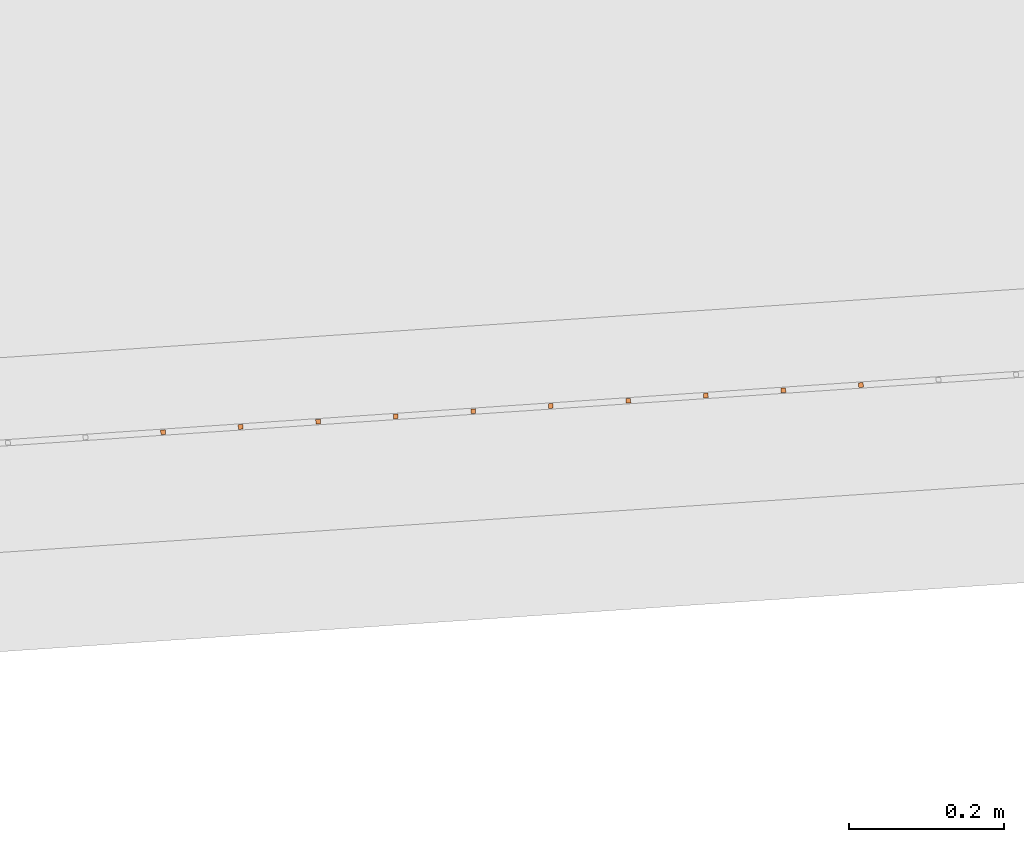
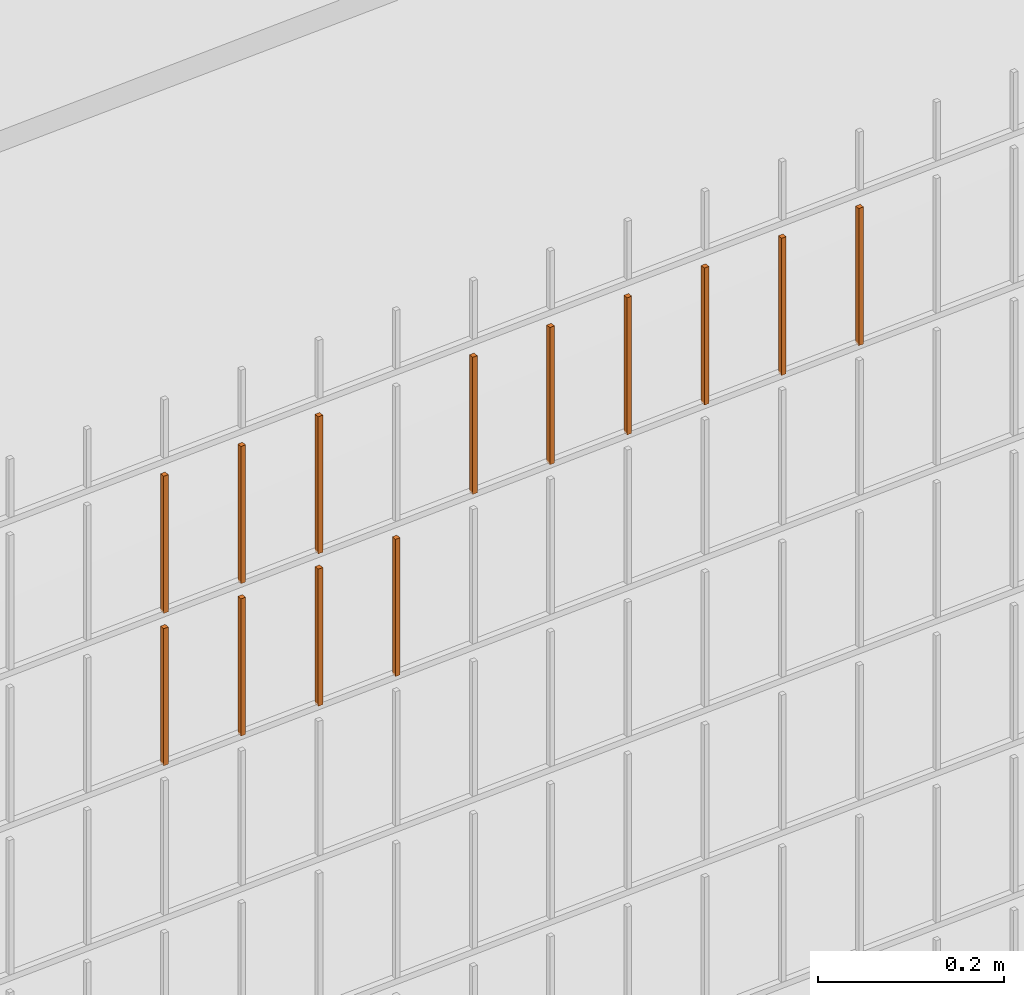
# One storey, part 261 of 1809: 13 proxies, 1 element without a shape of its own.
"""IFC2X3 building model written with IfcOpenShell, lengths in millimetres."""

from ifc_helpers import new_model, entity, si_unit, converted_unit, derived_unit, money_unit, direction, frame, origin_with_axes, place, context, subcontext, project, spatial, faceted_brep, source, transform, mapped, material, type_object, element, aggregate, save


model = new_model("IFC2X3")

# Units and contexts
model_context = context("Model", 3, precision=0.01, world=origin_with_axes(), true_north=direction((0.0, 1.0)))
body_context = subcontext(model_context, "Body", "Model", "MODEL_VIEW")
ifc_project = project(units=[si_unit("LENGTHUNIT", "METRE", prefix="MILLI"), si_unit("AREAUNIT", "SQUARE_METRE"), si_unit("VOLUMEUNIT", "CUBIC_METRE"), converted_unit("PLANEANGLEUNIT", "DEGREE", entity("IfcPlaneAngleMeasure", 0.0174532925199), si_unit("PLANEANGLEUNIT", "RADIAN"), dimensions=[0, 0, 0, 0, 0, 0, 0]), si_unit("SOLIDANGLEUNIT", "STERADIAN"), money_unit("EUR"), converted_unit("TIMEUNIT", "Year", entity("IfcTimeMeasure", 31556926.0), si_unit("TIMEUNIT", "SECOND"), dimensions=[0, 0, 1, 0, 0, 0, 0]), si_unit("MASSUNIT", "GRAM", prefix="KILO"), si_unit("THERMODYNAMICTEMPERATUREUNIT", "DEGREE_CELSIUS"), si_unit("LUMINOUSINTENSITYUNIT", "LUMEN"), si_unit("ENERGYUNIT", "JOULE", prefix="MEGA"), derived_unit("THERMALCONDUCTANCEUNIT", [(si_unit("POWERUNIT", "WATT"), 1), (si_unit("LENGTHUNIT", "METRE"), -1), (si_unit("THERMODYNAMICTEMPERATUREUNIT", "KELVIN"), -1)]), derived_unit("SPECIFICHEATCAPACITYUNIT", [(si_unit("ENERGYUNIT", "JOULE"), 1), (si_unit("MASSUNIT", "GRAM", prefix="KILO"), -1), (si_unit("THERMODYNAMICTEMPERATUREUNIT", "KELVIN"), -1)]), derived_unit("MASSDENSITYUNIT", [(si_unit("MASSUNIT", "GRAM", prefix="KILO"), 1), (si_unit("VOLUMEUNIT", "CUBIC_METRE"), -1)])], contexts=[model_context])

# Site, building, storey
site_placement = place(None, origin_with_axes())
site = spatial("IfcSite", under=ifc_project, at=site_placement, Name="Politse- ja Piirivalveameti ning Päästeameti ühishoone", CompositionType="ELEMENT")
building_placement = place(site_placement, origin_with_axes())
building = spatial("IfcBuilding", under=site, at=building_placement, Name="Politse- ja Piirivalveameti ning Päästeameti ühishoone", CompositionType="ELEMENT")
storey_placement = place(building_placement, origin_with_axes())
storey = spatial("IfcBuildingStorey", under=building, at=storey_placement, Name="Esimene korrus", CompositionType="ELEMENT", Elevation=0.0)

# Proxies
building_element_proxy_type_1 = type_object("IfcBuildingElementProxyType", Name="Railing Type", PredefinedType="NOTDEFINED")
proxy_1_placement = place(storey_placement, frame((89252.001212, -29183.4766571, 203.661247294), z_axis=(0.0, 0.0, 1.0), x_axis=(1.0, 0.0, 0.0)))
proxy_1 = element("IfcBuildingElementProxy", 1, at=proxy_1_placement, inside=storey, type_object=building_element_proxy_type_1, Name="PIIRDEAED")
ifc_material = material(Name="ET-03_Raud")
building_element_proxy_type_2 = type_object("IfcBuildingElementProxyType", Name="IfcBuildingElementProxy", PredefinedType="NOTDEFINED")
shared_shape_1 = source(origin_with_axes(), body_context, "Body", "Brep", [
    faceted_brep([(3.0, 3.0, -0.000752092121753), (-3.0, 3.0, -0.000752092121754), (-3.0, 3.0, 179.99926046), (3.0, 3.0, 179.99926046), (3.0, -3.0, 0.000752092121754), (-3.0, -3.0, 0.000752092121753), (-3.0, -3.0, 180.000764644), (3.0, -3.0, 180.000764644)], [[[0, 1, 2, 3]], [[0, 4, 5, 1]], [[1, 5, 6, 2]], [[3, 2, 6, 7]], [[4, 0, 3, 7]], [[5, 4, 7, 6]]]),
])
proxy_2_placement = place(proxy_1_placement, frame((-58692.9472729, -21262.2618507, 1812.48668932), z_axis=(0.0, 0.0, 1.0), x_axis=(1.0, 0.0, 0.0)))
proxy_2 = element("IfcBuildingElementProxy", 2, at=proxy_2_placement, type_object=building_element_proxy_type_2, material=ifc_material, Name="BALUSTER - 001", context=body_context, shape_type="MappedRepresentation", body=[
    mapped(shared_shape_1, transform((0.0, 0.0, 0.0), x_axis=(-0.0673926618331, 0.997726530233, 0.0), y_axis=(-0.997726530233, -0.0673926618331, 0.0), z_axis=(0.0, 0.0, 1.0))),
])
shared_shape_2 = source(origin_with_axes(), body_context, "Body", "Brep", [
    faceted_brep([(3.0, 3.0, -0.000752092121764), (-3.0, 3.0, -0.000752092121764), (-3.0, 3.0, 179.99926046), (3.0, 3.0, 179.99926046), (3.0, -3.0, 0.000752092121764), (-3.0, -3.0, 0.000752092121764), (-3.0, -3.0, 180.000764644), (3.0, -3.0, 180.000764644)], [[[0, 1, 2, 3]], [[0, 4, 5, 1]], [[1, 5, 6, 2]], [[3, 2, 6, 7]], [[4, 0, 3, 7]], [[5, 4, 7, 6]]]),
])
proxy_3_placement = place(proxy_1_placement, frame((-58393.6293138, -21242.0440521, 1812.56189853), z_axis=(0.0, 0.0, 1.0), x_axis=(1.0, 0.0, 0.0)))
proxy_3 = element("IfcBuildingElementProxy", 3, at=proxy_3_placement, type_object=building_element_proxy_type_2, material=ifc_material, Name="BALUSTER - 001", context=body_context, shape_type="MappedRepresentation", body=[
    mapped(shared_shape_2, transform((0.0, 0.0, 0.0), x_axis=(-0.0673926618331, 0.997726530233, 0.0), y_axis=(-0.997726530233, -0.0673926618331, 0.0), z_axis=(0.0, 0.0, 1.0))),
])
shared_shape_3 = source(origin_with_axes(), body_context, "Body", "Brep", [
    faceted_brep([(3.0, 3.0, -0.000752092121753), (-3.0, 3.0, -0.000752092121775), (-3.0, 3.0, 179.99926046), (3.0, 3.0, 179.99926046), (3.0, -3.0, 0.000752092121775), (-3.0, -3.0, 0.000752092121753), (-3.0, -3.0, 180.000764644), (3.0, -3.0, 180.000764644)], [[[0, 1, 2, 3]], [[0, 4, 5, 1]], [[1, 5, 6, 2]], [[3, 2, 6, 7]], [[4, 0, 3, 7]], [[5, 4, 7, 6]]]),
])
proxy_4_placement = place(proxy_1_placement, frame((-58293.8566608, -21235.304786, 1812.58696827), z_axis=(0.0, 0.0, 1.0), x_axis=(1.0, 0.0, 0.0)))
proxy_4 = element("IfcBuildingElementProxy", 4, at=proxy_4_placement, type_object=building_element_proxy_type_2, material=ifc_material, Name="BALUSTER - 001", context=body_context, shape_type="MappedRepresentation", body=[
    mapped(shared_shape_3, transform((0.0, 0.0, 0.0), x_axis=(-0.0673926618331, 0.997726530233, 0.0), y_axis=(-0.997726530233, -0.0673926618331, 0.0), z_axis=(0.0, 0.0, 1.0))),
])
shared_shape_4 = source(origin_with_axes(), body_context, "Body", "Brep", [
    faceted_brep([(3.0, 3.0, -0.000752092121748), (-3.0, 3.0, -0.00075209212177), (-3.0, 3.0, 179.99926046), (3.0, 3.0, 179.99926046), (3.0, -3.0, 0.00075209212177), (-3.0, -3.0, 0.000752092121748), (-3.0, -3.0, 180.000764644), (3.0, -3.0, 180.000764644)], [[[0, 1, 2, 3]], [[0, 4, 5, 1]], [[1, 5, 6, 2]], [[3, 2, 6, 7]], [[4, 0, 3, 7]], [[5, 4, 7, 6]]]),
])
proxy_5_placement = place(proxy_1_placement, frame((-58593.1746199, -21255.5225845, 1812.51175906), z_axis=(0.0, 0.0, 1.0), x_axis=(1.0, 0.0, 0.0)))
proxy_5 = element("IfcBuildingElementProxy", 5, at=proxy_5_placement, type_object=building_element_proxy_type_2, material=ifc_material, Name="BALUSTER - 001", context=body_context, shape_type="MappedRepresentation", body=[
    mapped(shared_shape_4, transform((0.0, 0.0, 0.0), x_axis=(-0.0673926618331, 0.997726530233, 0.0), y_axis=(-0.997726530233, -0.0673926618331, 0.0), z_axis=(0.0, 0.0, 1.0))),
])
shared_shape_5 = source(origin_with_axes(), body_context, "Body", "Brep", [
    faceted_brep([(3.0, 3.0, -0.000752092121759), (-3.0, 3.0, -0.000752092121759), (-3.0, 3.0, 179.99926046), (3.0, 3.0, 179.99926046), (3.0, -3.0, 0.000752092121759), (-3.0, -3.0, 0.000752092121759), (-3.0, -3.0, 180.000764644), (3.0, -3.0, 180.000764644)], [[[0, 1, 2, 3]], [[0, 4, 5, 1]], [[1, 5, 6, 2]], [[3, 2, 6, 7]], [[4, 0, 3, 7]], [[5, 4, 7, 6]]]),
])
proxy_6_placement = place(proxy_1_placement, frame((-58194.0840078, -21228.5655198, 1812.61203801), z_axis=(0.0, 0.0, 1.0), x_axis=(1.0, 0.0, 0.0)))
proxy_6 = element("IfcBuildingElementProxy", 6, at=proxy_6_placement, type_object=building_element_proxy_type_2, material=ifc_material, Name="BALUSTER - 001", context=body_context, shape_type="MappedRepresentation", body=[
    mapped(shared_shape_5, transform((0.0, 0.0, 0.0), x_axis=(-0.0673926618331, 0.997726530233, 0.0), y_axis=(-0.997726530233, -0.0673926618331, 0.0), z_axis=(0.0, 0.0, 1.0))),
])
shared_shape_6 = source(origin_with_axes(), body_context, "Body", "Brep", [
    faceted_brep([(3.0, 3.0, -0.000752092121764), (-3.0, 3.0, -0.000752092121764), (-3.0, 3.0, 179.99926046), (3.0, 3.0, 179.99926046), (3.0, -3.0, 0.000752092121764), (-3.0, -3.0, 0.000752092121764), (-3.0, -3.0, 180.000764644), (3.0, -3.0, 180.000764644)], [[[0, 1, 2, 3]], [[0, 4, 5, 1]], [[1, 5, 6, 2]], [[3, 2, 6, 7]], [[4, 0, 3, 7]], [[5, 4, 7, 6]]]),
])
proxy_7_placement = place(proxy_1_placement, frame((-58992.265232, -21282.4796492, 1812.41148011), z_axis=(0.0, 0.0, 1.0), x_axis=(1.0, 0.0, 0.0)))
proxy_7 = element("IfcBuildingElementProxy", 7, at=proxy_7_placement, type_object=building_element_proxy_type_2, material=ifc_material, Name="BALUSTER - 001", context=body_context, shape_type="MappedRepresentation", body=[
    mapped(shared_shape_6, transform((0.0, 0.0, 0.0), x_axis=(-0.0673926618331, 0.997726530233, 0.0), y_axis=(-0.997726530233, -0.0673926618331, 0.0), z_axis=(0.0, 0.0, 1.0))),
])
shared_shape_7 = source(origin_with_axes(), body_context, "Body", "Brep", [
    faceted_brep([(3.0, 3.0, -0.000752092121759), (-3.0, 3.0, -0.000752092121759), (-3.0, 3.0, 179.99926046), (3.0, 3.0, 179.99926046), (3.0, -3.0, 0.000752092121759), (-3.0, -3.0, 0.000752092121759), (-3.0, -3.0, 180.000764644), (3.0, -3.0, 180.000764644)], [[[0, 1, 2, 3]], [[0, 4, 5, 1]], [[1, 5, 6, 2]], [[3, 2, 6, 7]], [[4, 0, 3, 7]], [[5, 4, 7, 6]]]),
])
proxy_8_placement = place(proxy_1_placement, frame((-58792.7199259, -21269.0011169, 1612.46161958), z_axis=(0.0, 0.0, 1.0), x_axis=(1.0, 0.0, 0.0)))
proxy_8 = element("IfcBuildingElementProxy", 8, at=proxy_8_placement, type_object=building_element_proxy_type_2, material=ifc_material, Name="BALUSTER - 001", context=body_context, shape_type="MappedRepresentation", body=[
    mapped(shared_shape_7, transform((0.0, 0.0, 0.0), x_axis=(-0.0673926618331, 0.997726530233, 0.0), y_axis=(-0.997726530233, -0.0673926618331, 0.0), z_axis=(0.0, 0.0, 1.0))),
])
shared_shape_8 = source(origin_with_axes(), body_context, "Body", "Brep", [
    faceted_brep([(3.0, 3.0, -0.000752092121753), (-3.0, 3.0, -0.000752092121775), (-3.0, 3.0, 179.99926046), (3.0, 3.0, 179.99926046), (3.0, -3.0, 0.000752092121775), (-3.0, -3.0, 0.000752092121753), (-3.0, -3.0, 180.000764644), (3.0, -3.0, 180.000764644)], [[[0, 1, 2, 3]], [[0, 4, 5, 1]], [[1, 5, 6, 2]], [[3, 2, 6, 7]], [[4, 0, 3, 7]], [[5, 4, 7, 6]]]),
])
proxy_9_placement = place(proxy_1_placement, frame((-58892.4925789, -21275.7403831, 1612.43654985), z_axis=(0.0, 0.0, 1.0), x_axis=(1.0, 0.0, 0.0)))
proxy_9 = element("IfcBuildingElementProxy", 9, at=proxy_9_placement, type_object=building_element_proxy_type_2, material=ifc_material, Name="BALUSTER - 001", context=body_context, shape_type="MappedRepresentation", body=[
    mapped(shared_shape_8, transform((0.0, 0.0, 0.0), x_axis=(-0.0673926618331, 0.997726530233, 0.0), y_axis=(-0.997726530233, -0.0673926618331, 0.0), z_axis=(0.0, 0.0, 1.0))),
])
shared_shape_9 = source(origin_with_axes(), body_context, "Body", "Brep", [
    faceted_brep([(3.0, 3.0, -0.000752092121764), (-3.0, 3.0, -0.000752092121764), (-3.0, 3.0, 179.99926046), (3.0, 3.0, 179.99926046), (3.0, -3.0, 0.000752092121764), (-3.0, -3.0, 0.000752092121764), (-3.0, -3.0, 180.000764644), (3.0, -3.0, 180.000764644)], [[[0, 1, 2, 3]], [[0, 4, 5, 1]], [[1, 5, 6, 2]], [[3, 2, 6, 7]], [[4, 0, 3, 7]], [[5, 4, 7, 6]]]),
])
proxy_10_placement = place(proxy_1_placement, frame((-58992.265232, -21282.4796492, 1612.41148011), z_axis=(0.0, 0.0, 1.0), x_axis=(1.0, 0.0, 0.0)))
proxy_10 = element("IfcBuildingElementProxy", 10, at=proxy_10_placement, type_object=building_element_proxy_type_2, material=ifc_material, Name="BALUSTER - 001", context=body_context, shape_type="MappedRepresentation", body=[
    mapped(shared_shape_9, transform((0.0, 0.0, 0.0), x_axis=(-0.0673926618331, 0.997726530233, 0.0), y_axis=(-0.997726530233, -0.0673926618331, 0.0), z_axis=(0.0, 0.0, 1.0))),
])
shared_shape_10 = source(origin_with_axes(), body_context, "Body", "Brep", [
    faceted_brep([(3.0, 3.0, -0.000752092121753), (-3.0, 3.0, -0.000752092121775), (-3.0, 3.0, 179.99926046), (3.0, 3.0, 179.99926046), (3.0, -3.0, 0.000752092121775), (-3.0, -3.0, 0.000752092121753), (-3.0, -3.0, 180.000764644), (3.0, -3.0, 180.000764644)], [[[0, 1, 2, 3]], [[0, 4, 5, 1]], [[1, 5, 6, 2]], [[3, 2, 6, 7]], [[4, 0, 3, 7]], [[5, 4, 7, 6]]]),
])
proxy_11_placement = place(proxy_1_placement, frame((-59092.037885, -21289.2189154, 1612.38641037), z_axis=(0.0, 0.0, 1.0), x_axis=(1.0, 0.0, 0.0)))
proxy_11 = element("IfcBuildingElementProxy", 11, at=proxy_11_placement, type_object=building_element_proxy_type_2, material=ifc_material, Name="BALUSTER - 001", context=body_context, shape_type="MappedRepresentation", body=[
    mapped(shared_shape_10, transform((0.0, 0.0, 0.0), x_axis=(-0.0673926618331, 0.997726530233, 0.0), y_axis=(-0.997726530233, -0.0673926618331, 0.0), z_axis=(0.0, 0.0, 1.0))),
])
shared_shape_11 = source(origin_with_axes(), body_context, "Body", "Brep", [
    faceted_brep([(3.0, 3.0, -0.000752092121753), (-3.0, 3.0, -0.000752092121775), (-3.0, 3.0, 179.99926046), (3.0, 3.0, 179.99926046), (3.0, -3.0, 0.000752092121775), (-3.0, -3.0, 0.000752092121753), (-3.0, -3.0, 180.000764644), (3.0, -3.0, 180.000764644)], [[[0, 1, 2, 3]], [[0, 4, 5, 1]], [[1, 5, 6, 2]], [[3, 2, 6, 7]], [[4, 0, 3, 7]], [[5, 4, 7, 6]]]),
])
proxy_12_placement = place(proxy_1_placement, frame((-58493.4019668, -21248.7833183, 1812.53682879), z_axis=(0.0, 0.0, 1.0), x_axis=(1.0, 0.0, 0.0)))
proxy_12 = element("IfcBuildingElementProxy", 12, at=proxy_12_placement, type_object=building_element_proxy_type_2, material=ifc_material, Name="BALUSTER - 001", context=body_context, shape_type="MappedRepresentation", body=[
    mapped(shared_shape_11, transform((0.0, 0.0, 0.0), x_axis=(-0.0673926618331, 0.997726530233, 0.0), y_axis=(-0.997726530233, -0.0673926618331, 0.0), z_axis=(0.0, 0.0, 1.0))),
])
shared_shape_12 = source(origin_with_axes(), body_context, "Body", "Brep", [
    faceted_brep([(3.0, 3.0, -0.000752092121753), (-3.0, 3.0, -0.000752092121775), (-3.0, 3.0, 179.99926046), (3.0, 3.0, 179.99926046), (3.0, -3.0, 0.000752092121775), (-3.0, -3.0, 0.000752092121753), (-3.0, -3.0, 180.000764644), (3.0, -3.0, 180.000764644)], [[[0, 1, 2, 3]], [[0, 4, 5, 1]], [[1, 5, 6, 2]], [[3, 2, 6, 7]], [[4, 0, 3, 7]], [[5, 4, 7, 6]]]),
])
proxy_13_placement = place(proxy_1_placement, frame((-58892.4925789, -21275.7403831, 1812.43654985), z_axis=(0.0, 0.0, 1.0), x_axis=(1.0, 0.0, 0.0)))
proxy_13 = element("IfcBuildingElementProxy", 13, at=proxy_13_placement, type_object=building_element_proxy_type_2, material=ifc_material, Name="BALUSTER - 001", context=body_context, shape_type="MappedRepresentation", body=[
    mapped(shared_shape_12, transform((0.0, 0.0, 0.0), x_axis=(-0.0673926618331, 0.997726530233, 0.0), y_axis=(-0.997726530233, -0.0673926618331, 0.0), z_axis=(0.0, 0.0, 1.0))),
])
shared_shape_13 = source(origin_with_axes(), body_context, "Body", "Brep", [
    faceted_brep([(3.0, 3.0, -0.000752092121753), (-3.0, 3.0, -0.000752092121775), (-3.0, 3.0, 179.99926046), (3.0, 3.0, 179.99926046), (3.0, -3.0, 0.000752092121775), (-3.0, -3.0, 0.000752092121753), (-3.0, -3.0, 180.000764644), (3.0, -3.0, 180.000764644)], [[[0, 1, 2, 3]], [[0, 4, 5, 1]], [[1, 5, 6, 2]], [[3, 2, 6, 7]], [[4, 0, 3, 7]], [[5, 4, 7, 6]]]),
])
proxy_14_placement = place(proxy_1_placement, frame((-59092.037885, -21289.2189154, 1812.38641037), z_axis=(0.0, 0.0, 1.0), x_axis=(1.0, 0.0, 0.0)))
proxy_14 = element("IfcBuildingElementProxy", 14, at=proxy_14_placement, type_object=building_element_proxy_type_2, material=ifc_material, Name="BALUSTER - 001", context=body_context, shape_type="MappedRepresentation", body=[
    mapped(shared_shape_13, transform((0.0, 0.0, 0.0), x_axis=(-0.0673926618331, 0.997726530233, 0.0), y_axis=(-0.997726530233, -0.0673926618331, 0.0), z_axis=(0.0, 0.0, 1.0))),
])
aggregate(proxy_1, [proxy_8, proxy_9, proxy_10, proxy_11, proxy_6, proxy_4, proxy_3, proxy_12, proxy_5, proxy_2, proxy_13, proxy_7, proxy_14])

save(model, "model.ifc")
